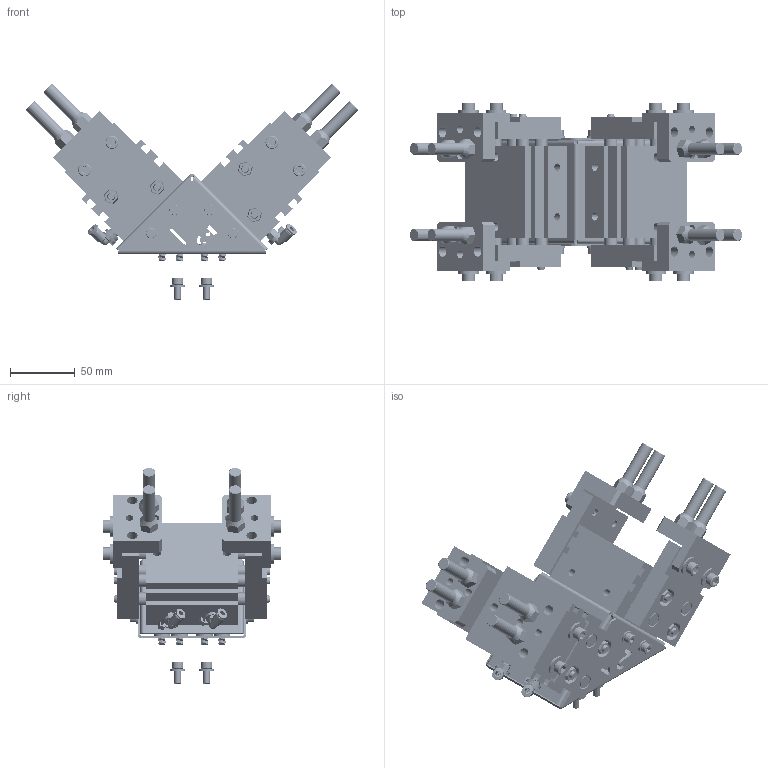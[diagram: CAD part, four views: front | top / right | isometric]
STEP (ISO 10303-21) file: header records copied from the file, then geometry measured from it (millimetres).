
FILE_DESCRIPTION (( 'STEP AP203' ), '1' );
FILE_NAME ('09-0613 CLOSED.STEP', '2023-09-05T15:18:26', ( '' ), ( '' ), 'SwSTEP 2.0', 'SolidWorks 2022', '' );
FILE_SCHEMA (( 'CONFIG_CONTROL_DESIGN' ));
Length unit declared in the file: inch
Products named in the file (20): 10000154786_91290A228; 10000220159; 10000214077_91239A316; 70-0007; 10000136307; 45-0064; 40-0037; 40-1626_40-1626; 45-0093; 10000094571_Standard; 70-0016; 10000133960; 10000206994; 09-0613 CLOSED; 45-0040; 70-0004; 70-0008; 10000105593; 10000133958; 10000006235_DEFAULT
Assembly tree (80 placements, depth 2):
  09-0613 CLOSED
    10000133958  x2
    10000220159
    10000133960
    10000136307  x4
    45-0093  x4
    10000154786_91290A228  x4
    10000006235_DEFAULT  x8
    45-0040  x8
    40-1626_40-1626  x8
    45-0064  x8
    40-0037  x8
    10000206994  x4
    10000214077_91239A316  x4
    10000105593  x8
    10000094571_Standard  x4
    70-0008
    70-0007
    70-0004
    70-0016
Bounding box: 255.51 x 137.54 x 166.45 mm (x, y, z)
Volume: 852907 mm3; surface area: 280315.8 mm2
Topology: 92 solids, 92 shells, 3194 faces, 7660 edges, 4816 vertices
Faces by surface type: cylinder 1500, plane 940, cone 596, torus 76, bspline 62, sphere 20
Entity records: 39654 total; most frequent: CARTESIAN_POINT 11822, DIRECTION 5051, ORIENTED_EDGE 4940, EDGE_CURVE 2470, AXIS2_PLACEMENT_3D 1899, VERTEX_POINT 1564, LINE 1253, VECTOR 1253
